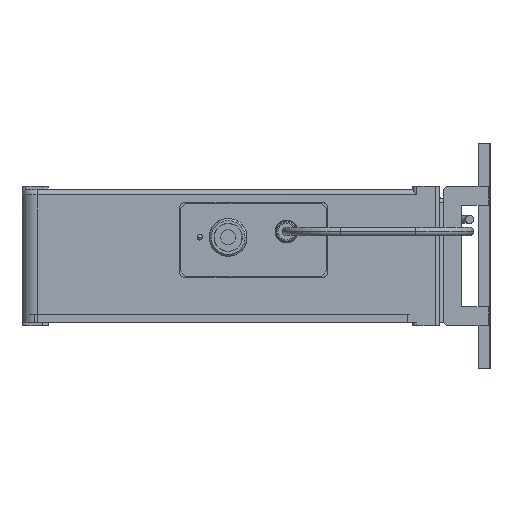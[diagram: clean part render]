
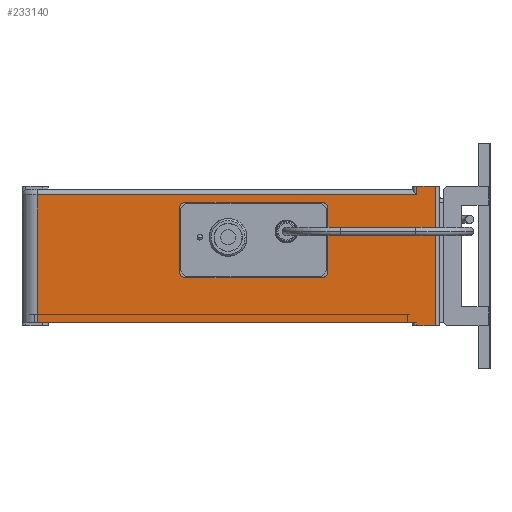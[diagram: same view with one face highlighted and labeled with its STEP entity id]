
A CAD part, left-side view. The second image highlights one B-rep face of the part: STEP entity #233140.
In plain terms, the highlighted planar face has unit normal (-1, 0, 0) as drawn and (1, 0, 0) by its records, which use the part's own axes.
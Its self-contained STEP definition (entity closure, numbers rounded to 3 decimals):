
#221740=CARTESIAN_POINT('',(137.589,-62.828,
34.));
#221750=DIRECTION('',(1.,0.,0.));
#221760=DIRECTION('',(0.,-1.,0.));
#221770=AXIS2_PLACEMENT_3D('',#221740,#221750,#221760);
#221780=CIRCLE('',#221770,3.);
#221790=CARTESIAN_POINT('',(137.589,-62.828,
37.));
#221800=VERTEX_POINT('',#221790);
#221810=CARTESIAN_POINT('',(137.589,-65.828,
34.));
#221820=VERTEX_POINT('',#221810);
#221830=EDGE_CURVE('',#221800,#221820,#221780,.T.);
#225060=CARTESIAN_POINT('',(137.589,0.,37.));
#225070=DIRECTION('',(0.,-1.,0.));
#225080=VECTOR('',#225070,1.);
#225090=LINE('',#225060,#225080);
#225100=CARTESIAN_POINT('',(137.589,10.172,
37.));
#225110=VERTEX_POINT('',#225100);
#225120=EDGE_CURVE('',#225110,#221800,#225090,.T.);
#228890=CARTESIAN_POINT('',(137.589,-123.128,
-11.5));
#228900=VERTEX_POINT('',#228890);
#228930=CARTESIAN_POINT('',(137.589,0.,-11.5));
#228940=DIRECTION('',(0.,-1.,0.));
#228950=VECTOR('',#228940,1.);
#228960=LINE('',#228930,#228950);
#228970=CARTESIAN_POINT('',(137.589,-113.128,
-11.5));
#228980=VERTEX_POINT('',#228970);
#228990=EDGE_CURVE('',#228980,#228900,#228960,.T.);
#231990=CARTESIAN_POINT('',(137.589,-118.828,
-8.5));
#232000=DIRECTION('',(1.,0.,0.));
#232010=DIRECTION('',(0.,-1.,0.));
#232020=AXIS2_PLACEMENT_3D('',#231990,#232000,#232010);
#232030=PLANE('',#232020);
#232040=ORIENTED_EDGE('',*,*,#228990,.F.);
#232050=CARTESIAN_POINT('',(137.589,-123.128,
0.));
#232060=DIRECTION('',(0.,0.,1.));
#232070=VECTOR('',#232060,1.);
#232080=LINE('',#232050,#232070);
#232090=CARTESIAN_POINT('',(137.589,-123.128,
62.5));
#232100=VERTEX_POINT('',#232090);
#232110=EDGE_CURVE('',#228900,#232100,#232080,.T.);
#232120=ORIENTED_EDGE('',*,*,#232110,.F.);
#232130=CARTESIAN_POINT('',(137.589,0.,62.5));
#232140=DIRECTION('',(0.,-1.,0.));
#232150=VECTOR('',#232140,1.);
#232160=LINE('',#232130,#232150);
#232170=CARTESIAN_POINT('',(137.589,-113.128,
62.5));
#232180=VERTEX_POINT('',#232170);
#232190=EDGE_CURVE('',#232180,#232100,#232160,.T.);
#232200=ORIENTED_EDGE('',*,*,#232190,.T.);
#232210=CARTESIAN_POINT('',(137.589,-113.128,0.));
#232220=DIRECTION('',(0.,0.,1.));
#232230=VECTOR('',#232220,1.);
#232240=LINE('',#232210,#232230);
#232250=CARTESIAN_POINT('',(137.589,-113.128,
61.));
#232260=VERTEX_POINT('',#232250);
#232270=EDGE_CURVE('',#232260,#232180,#232240,.T.);
#232280=ORIENTED_EDGE('',*,*,#232270,.T.);
#232290=CARTESIAN_POINT('',(137.589,0.,61.));
#232300=DIRECTION('',(0.,-1.,0.));
#232310=VECTOR('',#232300,1.);
#232320=LINE('',#232290,#232310);
#232330=CARTESIAN_POINT('',(137.589,88.872,
61.));
#232340=VERTEX_POINT('',#232330);
#232350=EDGE_CURVE('',#232340,#232260,#232320,.T.);
#232360=ORIENTED_EDGE('',*,*,#232350,.T.);
#232370=CARTESIAN_POINT('',(137.589,88.872,0.));
#232380=DIRECTION('',(0.,0.,-1.));
#232390=VECTOR('',#232380,1.);
#232400=LINE('',#232370,#232390);
#232410=CARTESIAN_POINT('',(137.589,88.872,
-7.));
#232420=VERTEX_POINT('',#232410);
#232430=EDGE_CURVE('',#232340,#232420,#232400,.T.);
#232440=ORIENTED_EDGE('',*,*,#232430,.F.);
#232450=CARTESIAN_POINT('',(137.589,0.,-7.));
#232460=DIRECTION('',(0.,1.,0.));
#232470=VECTOR('',#232460,1.);
#232480=LINE('',#232450,#232470);
#232490=CARTESIAN_POINT('',(137.589,-113.128,
-7.));
#232500=VERTEX_POINT('',#232490);
#232510=EDGE_CURVE('',#232500,#232420,#232480,.T.);
#232520=ORIENTED_EDGE('',*,*,#232510,.T.);
#232530=CARTESIAN_POINT('',(137.589,-113.128,0.));
#232540=DIRECTION('',(0.,0.,1.));
#232550=VECTOR('',#232540,1.);
#232560=LINE('',#232530,#232550);
#232570=EDGE_CURVE('',#228980,#232500,#232560,.T.);
#232580=ORIENTED_EDGE('',*,*,#232570,.T.);
#232590=EDGE_LOOP('',(#232580,#232520,#232440,#232360,#232280,#232200,
#232120,#232040));
#232600=FACE_OUTER_BOUND('',#232590,.T.);
#232610=CARTESIAN_POINT('',(137.589,10.172,
0.));
#232620=DIRECTION('',(1.,0.,0.));
#232630=DIRECTION('',(0.,-1.,0.));
#232640=AXIS2_PLACEMENT_3D('',#232610,#232620,#232630);
#232650=CIRCLE('',#232640,3.);
#232660=CARTESIAN_POINT('',(137.589,10.172,
-3.));
#232670=VERTEX_POINT('',#232660);
#232680=CARTESIAN_POINT('',(137.589,13.172,
0.));
#232690=VERTEX_POINT('',#232680);
#232700=EDGE_CURVE('',#232670,#232690,#232650,.T.);
#232710=ORIENTED_EDGE('',*,*,#232700,.F.);
#232720=CARTESIAN_POINT('',(137.589,13.172,0.));
#232730=DIRECTION('',(0.,0.,1.));
#232740=VECTOR('',#232730,1.);
#232750=LINE('',#232720,#232740);
#232760=CARTESIAN_POINT('',(137.589,13.172,
34.));
#232770=VERTEX_POINT('',#232760);
#232780=EDGE_CURVE('',#232690,#232770,#232750,.T.);
#232790=ORIENTED_EDGE('',*,*,#232780,.F.);
#232800=CARTESIAN_POINT('',(137.589,10.172,
34.));
#232810=DIRECTION('',(1.,0.,0.));
#232820=DIRECTION('',(0.,-1.,0.));
#232830=AXIS2_PLACEMENT_3D('',#232800,#232810,#232820);
#232840=CIRCLE('',#232830,3.);
#232850=EDGE_CURVE('',#232770,#225110,#232840,.T.);
#232860=ORIENTED_EDGE('',*,*,#232850,.F.);
#232870=ORIENTED_EDGE('',*,*,#225120,.F.);
#232880=ORIENTED_EDGE('',*,*,#221830,.F.);
#232890=CARTESIAN_POINT('',(137.589,-65.828,0.));
#232900=DIRECTION('',(0.,0.,-1.));
#232910=VECTOR('',#232900,1.);
#232920=LINE('',#232890,#232910);
#232930=CARTESIAN_POINT('',(137.589,-65.828,
0.));
#232940=VERTEX_POINT('',#232930);
#232950=EDGE_CURVE('',#221820,#232940,#232920,.T.);
#232960=ORIENTED_EDGE('',*,*,#232950,.F.);
#232970=CARTESIAN_POINT('',(137.589,-62.828,
0.));
#232980=DIRECTION('',(1.,0.,0.));
#232990=DIRECTION('',(0.,-1.,0.));
#233000=AXIS2_PLACEMENT_3D('',#232970,#232980,#232990);
#233010=CIRCLE('',#233000,3.);
#233020=CARTESIAN_POINT('',(137.589,-62.828,
-3.));
#233030=VERTEX_POINT('',#233020);
#233040=EDGE_CURVE('',#232940,#233030,#233010,.T.);
#233050=ORIENTED_EDGE('',*,*,#233040,.F.);
#233060=CARTESIAN_POINT('',(137.589,0.,-3.));
#233070=DIRECTION('',(0.,1.,0.));
#233080=VECTOR('',#233070,1.);
#233090=LINE('',#233060,#233080);
#233100=EDGE_CURVE('',#233030,#232670,#233090,.T.);
#233110=ORIENTED_EDGE('',*,*,#233100,.F.);
#233120=EDGE_LOOP('',(#233110,#233050,#232960,#232880,#232870,#232860,
#232790,#232710));
#233130=FACE_BOUND('',#233120,.T.);
#233140=ADVANCED_FACE('',(#232600,#233130),#232030,.T.);
